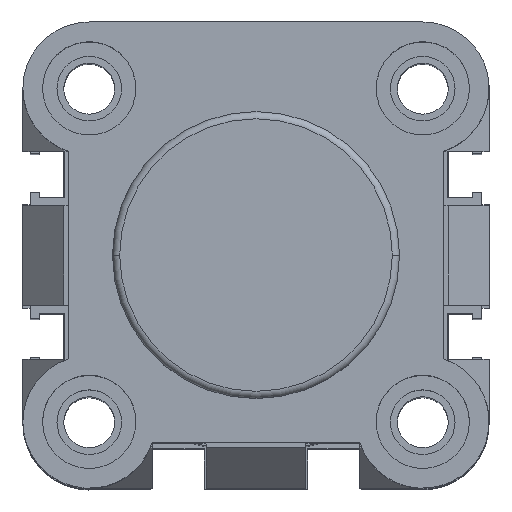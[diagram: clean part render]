
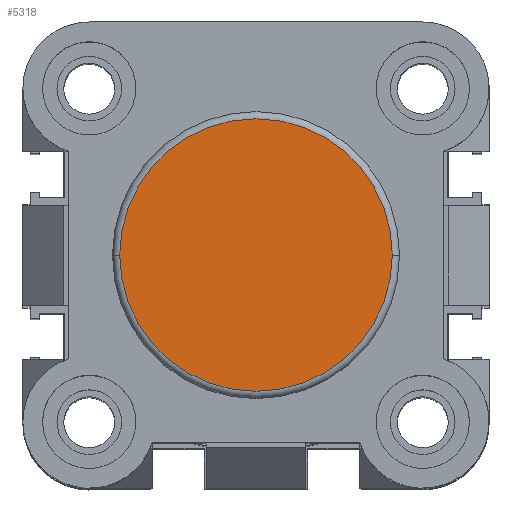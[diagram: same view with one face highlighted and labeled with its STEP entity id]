
A CAD part, top view. The second image highlights one B-rep face of the part: STEP entity #5318.
In plain terms, the highlighted planar face has unit normal (0, 0, 1).
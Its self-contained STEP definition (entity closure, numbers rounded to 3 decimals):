
#352 = AXIS2_PLACEMENT_3D ( 'NONE', #12689, #12818, #7748 ) ;
#544 = AXIS2_PLACEMENT_3D ( 'NONE', #11267, #4941, #11122 ) ;
#4101 = CARTESIAN_POINT ( 'NONE',  ( 13.5, 32.5, 34. ) ) ;
#4132 = DIRECTION ( 'NONE',  ( 1., 0., 0. ) ) ;
#4581 = EDGE_LOOP ( 'NONE', ( #7348, #8825 ) ) ;
#4941 = DIRECTION ( 'NONE',  ( 0., 0., 1. ) ) ;
#5225 = EDGE_CURVE ( 'NONE', #10561, #10940, #6378, .T. ) ;
#5318 = ADVANCED_FACE ( 'NONE', ( #10548 ), #9234, .T. ) ;
#5390 = AXIS2_PLACEMENT_3D ( 'NONE', #10127, #12307, #4132 ) ;
#6056 = CIRCLE ( 'NONE', #352, 19. ) ;
#6378 = CIRCLE ( 'NONE', #544, 19. ) ;
#7348 = ORIENTED_EDGE ( 'NONE', *, *, #8970, .T. ) ;
#7748 = DIRECTION ( 'NONE',  ( 1., 0., 0. ) ) ;
#8825 = ORIENTED_EDGE ( 'NONE', *, *, #5225, .T. ) ;
#8970 = EDGE_CURVE ( 'NONE', #10940, #10561, #6056, .T. ) ;
#9234 = PLANE ( 'NONE',  #5390 ) ;
#10127 = CARTESIAN_POINT ( 'NONE',  ( 32.5, 32.5, 34. ) ) ;
#10548 = FACE_OUTER_BOUND ( 'NONE', #4581, .T. ) ;
#10561 = VERTEX_POINT ( 'NONE', #4101 ) ;
#10940 = VERTEX_POINT ( 'NONE', #11869 ) ;
#11122 = DIRECTION ( 'NONE',  ( 1., 0., 0. ) ) ;
#11267 = CARTESIAN_POINT ( 'NONE',  ( 32.5, 32.5, 34. ) ) ;
#11869 = CARTESIAN_POINT ( 'NONE',  ( 51.5, 32.5, 34. ) ) ;
#12307 = DIRECTION ( 'NONE',  ( 0., 0., 1. ) ) ;
#12689 = CARTESIAN_POINT ( 'NONE',  ( 32.5, 32.5, 34. ) ) ;
#12818 = DIRECTION ( 'NONE',  ( 0., 0., 1. ) ) ;
